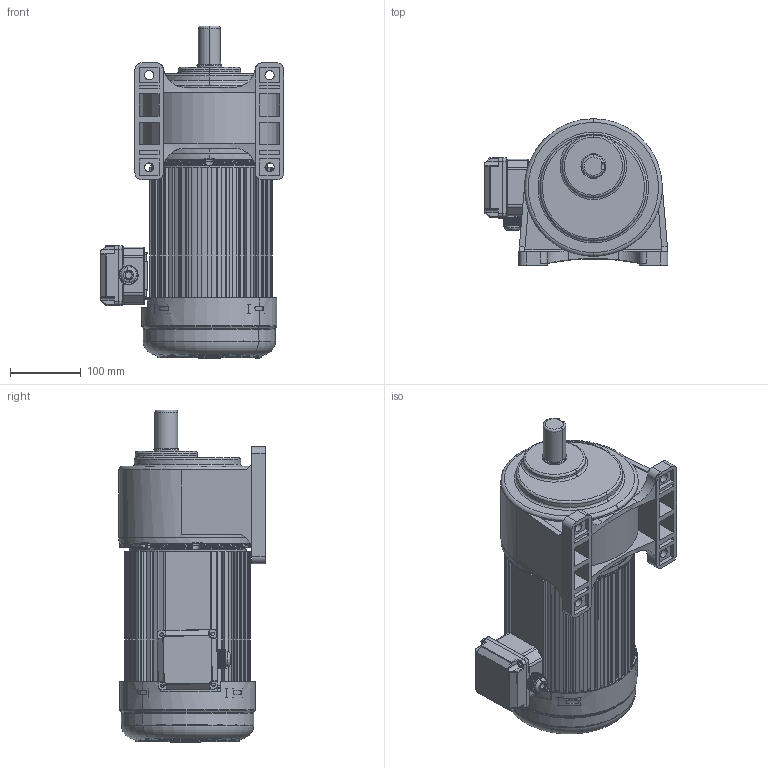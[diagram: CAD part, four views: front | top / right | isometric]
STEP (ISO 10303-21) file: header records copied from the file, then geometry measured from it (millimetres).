
FILE_DESCRIPTION (( 'STEP AP203' ), '1' );
FILE_NAME ('2200W饜4#湍价陬拏宒.STEP', '2020-04-18T01:40:26', ( 'china' ), ( 'china' ), 'SwSTEP 2.0', 'SolidWorks 2019', '' );
FILE_SCHEMA (( 'CONFIG_CONTROL_DESIGN' ));
Length unit declared in the file: millimetre
Products named in the file (9): 1500W棠憤迖殤; 湍价陬諉盄碟裔; 4-xg3-0926; 瑞欶; 4#拏宒眊极; 蜊輛綴諉盄碟釱3; 2200W饜4#湍价陬拏宒; 諉芛; 2200W儂褲
Assembly tree (8 placements, depth 2):
  2200W饜4#湍价陬拏宒
    瑞欶
    蜊輛綴諉盄碟釱3
    諉芛
    2200W儂褲
    1500W棠憤迖殤
    湍价陬諉盄碟裔
    4-xg3-0926
    4#拏宒眊极
Bounding box: 258.99 x 206.5 x 468.48 mm (x, y, z)
Volume: 4840567.2 mm3; surface area: 988485 mm2
Topology: 7 solids, 8 shells, 3268 faces, 8645 edges, 5332 vertices
Faces by surface type: plane 1230, cylinder 998, bspline 472, torus 306, cone 200, sphere 62
Entity records: 214319 total; most frequent: CARTESIAN_POINT 136641, ORIENTED_EDGE 17043, DIRECTION 14418, EDGE_CURVE 8523, VERTEX_POINT 5332, AXIS2_PLACEMENT_3D 5176, LINE 4066, VECTOR 4066
